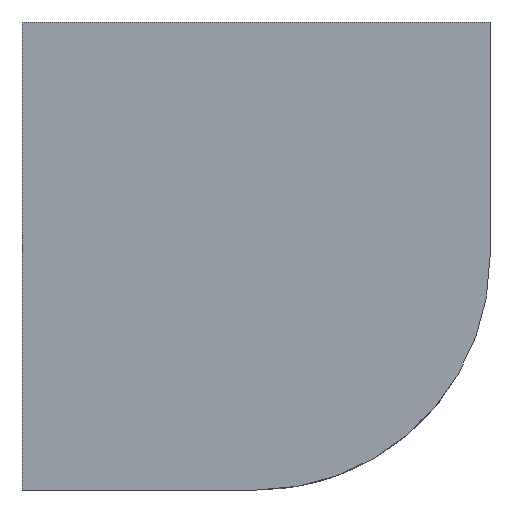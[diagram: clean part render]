
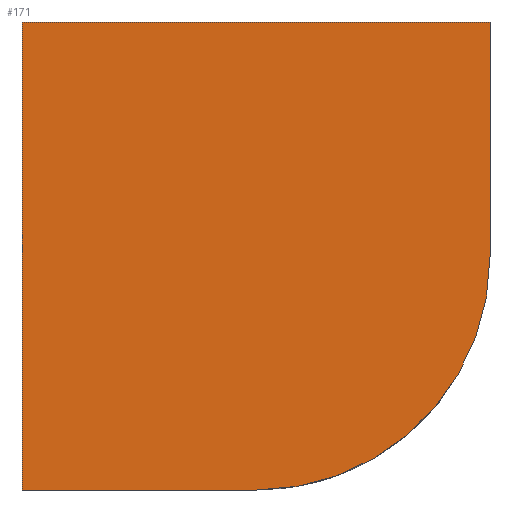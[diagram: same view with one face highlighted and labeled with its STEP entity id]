
A CAD part, left-side view. The second image highlights one B-rep face of the part: STEP entity #171.
In plain terms, the highlighted planar face has unit normal (-1, 0, 0).
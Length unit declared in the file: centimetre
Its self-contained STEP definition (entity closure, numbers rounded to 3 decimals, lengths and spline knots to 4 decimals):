
#8 = DIRECTION ( 'NONE',  ( -1., 0., 0. ) ) ;
#14 = CARTESIAN_POINT ( 'NONE',  ( 0., 1000., 1000. ) ) ;
#19 = LINE ( 'NONE', #305, #364 ) ;
#27 = CIRCLE ( 'NONE', #465, 499.0111 ) ;
#58 = VERTEX_POINT ( 'NONE', #14 ) ;
#66 = EDGE_CURVE ( 'NONE', #58, #82, #19, .T. ) ;
#82 = VERTEX_POINT ( 'NONE', #115 ) ;
#83 = ORIENTED_EDGE ( 'NONE', *, *, #100, .T. ) ;
#90 = VERTEX_POINT ( 'NONE', #256 ) ;
#93 = DIRECTION ( 'NONE',  ( 0., 0., -1. ) ) ;
#100 = EDGE_CURVE ( 'NONE', #90, #185, #27, .T. ) ;
#115 = CARTESIAN_POINT ( 'NONE',  ( 0., 0., 1000. ) ) ;
#126 = DIRECTION ( 'NONE',  ( 0., 0., -1. ) ) ;
#142 = EDGE_CURVE ( 'NONE', #58, #191, #204, .T. ) ;
#149 = CARTESIAN_POINT ( 'NONE',  ( 0., 0., 1000. ) ) ;
#157 = DIRECTION ( 'NONE',  ( 0., -1., 0. ) ) ;
#161 = ORIENTED_EDGE ( 'NONE', *, *, #287, .F. ) ;
#171 = ADVANCED_FACE ( 'NONE', ( #351 ), #206, .F. ) ;
#185 = VERTEX_POINT ( 'NONE', #273 ) ;
#188 = CARTESIAN_POINT ( 'NONE',  ( 0., 499.0111, 499.0111 ) ) ;
#191 = VERTEX_POINT ( 'NONE', #312 ) ;
#204 = LINE ( 'NONE', #472, #304 ) ;
#206 = PLANE ( 'NONE',  #239 ) ;
#222 = ORIENTED_EDGE ( 'NONE', *, *, #469, .T. ) ;
#239 = AXIS2_PLACEMENT_3D ( 'NONE', #391, #362, #356 ) ;
#256 = CARTESIAN_POINT ( 'NONE',  ( 0., 499.0111, 0. ) ) ;
#273 = CARTESIAN_POINT ( 'NONE',  ( 0., 0., 499.0111 ) ) ;
#287 = EDGE_CURVE ( 'NONE', #82, #185, #297, .T. ) ;
#297 = LINE ( 'NONE', #149, #350 ) ;
#304 = VECTOR ( 'NONE', #468, 100. ) ;
#305 = CARTESIAN_POINT ( 'NONE',  ( 0., 1000., 1000. ) ) ;
#312 = CARTESIAN_POINT ( 'NONE',  ( 0., 1000., 0. ) ) ;
#338 = CARTESIAN_POINT ( 'NONE',  ( 0., 1000., 0. ) ) ;
#343 = LINE ( 'NONE', #338, #423 ) ;
#350 = VECTOR ( 'NONE', #126, 100. ) ;
#351 = FACE_OUTER_BOUND ( 'NONE', #385, .T. ) ;
#356 = DIRECTION ( 'NONE',  ( 0., 0., -1. ) ) ;
#362 = DIRECTION ( 'NONE',  ( 1., 0., 0. ) ) ;
#364 = VECTOR ( 'NONE', #459, 100. ) ;
#385 = EDGE_LOOP ( 'NONE', ( #222, #83, #161, #386, #453 ) ) ;
#386 = ORIENTED_EDGE ( 'NONE', *, *, #66, .F. ) ;
#391 = CARTESIAN_POINT ( 'NONE',  ( 0., 1000., 1000. ) ) ;
#423 = VECTOR ( 'NONE', #157, 100. ) ;
#453 = ORIENTED_EDGE ( 'NONE', *, *, #142, .T. ) ;
#459 = DIRECTION ( 'NONE',  ( 0., -1., 0. ) ) ;
#465 = AXIS2_PLACEMENT_3D ( 'NONE', #188, #8, #93 ) ;
#468 = DIRECTION ( 'NONE',  ( 0., 0., -1. ) ) ;
#469 = EDGE_CURVE ( 'NONE', #191, #90, #343, .T. ) ;
#472 = CARTESIAN_POINT ( 'NONE',  ( 0., 1000., 1000. ) ) ;
